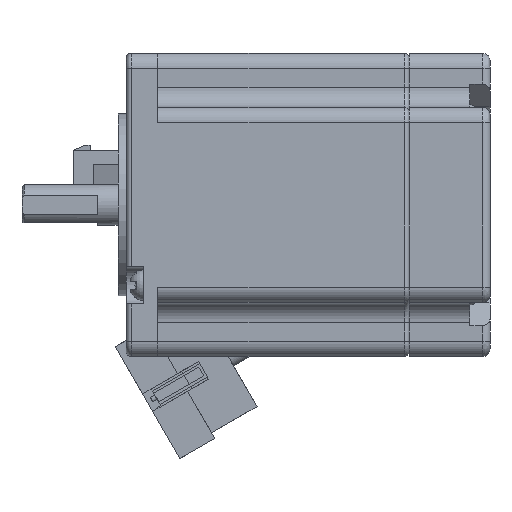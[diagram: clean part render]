
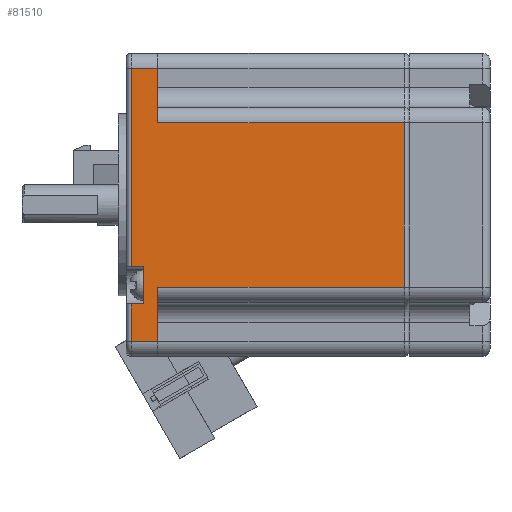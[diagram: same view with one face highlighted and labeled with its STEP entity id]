
A CAD part, front view. The second image highlights one B-rep face of the part: STEP entity #81510.
In plain terms, the highlighted planar face has unit normal (0, -1, 0).
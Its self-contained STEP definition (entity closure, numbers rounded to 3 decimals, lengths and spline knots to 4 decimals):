
#10866=LINE('',#129861,#21677);
#10867=LINE('',#129865,#21678);
#10868=LINE('',#129867,#21679);
#10869=LINE('',#129869,#21680);
#10870=LINE('',#129871,#21681);
#10871=LINE('',#129873,#21682);
#10872=LINE('',#129875,#21683);
#10873=LINE('',#129877,#21684);
#10874=LINE('',#129879,#21685);
#10875=LINE('',#129881,#21686);
#10876=LINE('',#129883,#21687);
#10877=LINE('',#129884,#21688);
#21677=VECTOR('',#105477,1.9173);
#21678=VECTOR('',#105482,1.2835);
#21679=VECTOR('',#105483,1.9173);
#21680=VECTOR('',#105484,0.4213);
#21681=VECTOR('',#105485,0.2087);
#21682=VECTOR('',#105486,1.5433);
#21683=VECTOR('',#105487,0.0984);
#21684=VECTOR('',#105488,0.2913);
#21685=VECTOR('',#105489,0.0984);
#21686=VECTOR('',#105490,0.2913);
#21687=VECTOR('',#105491,0.2087);
#21688=VECTOR('',#105492,0.4213);
#25634=PLANE('',#85985);
#29801=FACE_OUTER_BOUND('',#33996,.T.);
#33996=EDGE_LOOP('',(#76542,#76543,#76544,#76545,#76546,#76547,#76548,#76549,
#76550,#76551,#76552,#76553));
#42408=VERTEX_POINT('',#129858);
#42409=VERTEX_POINT('',#129860);
#42410=VERTEX_POINT('',#129864);
#42411=VERTEX_POINT('',#129866);
#42412=VERTEX_POINT('',#129868);
#42413=VERTEX_POINT('',#129870);
#42414=VERTEX_POINT('',#129872);
#42415=VERTEX_POINT('',#129874);
#42416=VERTEX_POINT('',#129876);
#42417=VERTEX_POINT('',#129878);
#42418=VERTEX_POINT('',#129880);
#42419=VERTEX_POINT('',#129882);
#53862=EDGE_CURVE('',#42408,#42409,#10866,.T.);
#53864=EDGE_CURVE('',#42408,#42410,#10867,.T.);
#53865=EDGE_CURVE('',#42410,#42411,#10868,.T.);
#53866=EDGE_CURVE('',#42411,#42412,#10869,.T.);
#53867=EDGE_CURVE('',#42412,#42413,#10870,.T.);
#53868=EDGE_CURVE('',#42413,#42414,#10871,.T.);
#53869=EDGE_CURVE('',#42414,#42415,#10872,.T.);
#53870=EDGE_CURVE('',#42415,#42416,#10873,.T.);
#53871=EDGE_CURVE('',#42416,#42417,#10874,.T.);
#53872=EDGE_CURVE('',#42417,#42418,#10875,.T.);
#53873=EDGE_CURVE('',#42418,#42419,#10876,.T.);
#53874=EDGE_CURVE('',#42419,#42409,#10877,.T.);
#76542=ORIENTED_EDGE('',*,*,#53862,.F.);
#76543=ORIENTED_EDGE('',*,*,#53864,.T.);
#76544=ORIENTED_EDGE('',*,*,#53865,.T.);
#76545=ORIENTED_EDGE('',*,*,#53866,.T.);
#76546=ORIENTED_EDGE('',*,*,#53867,.T.);
#76547=ORIENTED_EDGE('',*,*,#53868,.T.);
#76548=ORIENTED_EDGE('',*,*,#53869,.T.);
#76549=ORIENTED_EDGE('',*,*,#53870,.T.);
#76550=ORIENTED_EDGE('',*,*,#53871,.T.);
#76551=ORIENTED_EDGE('',*,*,#53872,.T.);
#76552=ORIENTED_EDGE('',*,*,#53873,.T.);
#76553=ORIENTED_EDGE('',*,*,#53874,.T.);
#81510=ADVANCED_FACE('',(#29801),#25634,.T.);
#85985=AXIS2_PLACEMENT_3D('',#129863,#105480,#105481);
#105477=DIRECTION('',(-1.,0.,0.));
#105480=DIRECTION('center_axis',(0.,-1.,0.));
#105481=DIRECTION('ref_axis',(1.,0.,0.));
#105482=DIRECTION('',(0.,0.,1.));
#105483=DIRECTION('',(-1.,0.,0.));
#105484=DIRECTION('',(0.,0.,1.));
#105485=DIRECTION('',(-1.,0.,0.));
#105486=DIRECTION('',(0.,0.,-1.));
#105487=DIRECTION('',(1.,0.,0.));
#105488=DIRECTION('',(0.,0.,-1.));
#105489=DIRECTION('',(-1.,0.,0.));
#105490=DIRECTION('',(0.,0.,-1.));
#105491=DIRECTION('',(1.,0.,0.));
#105492=DIRECTION('',(0.,0.,1.));
#129858=CARTESIAN_POINT('',(-0.7648,-2.3622,-1.8228));
#129860=CARTESIAN_POINT('',(-2.6822,-2.3622,-1.8228));
#129861=CARTESIAN_POINT('',(-2.6822,-2.3622,-1.8228));
#129863=CARTESIAN_POINT('Origin',(-2.9302,-2.3622,0.));
#129864=CARTESIAN_POINT('',(-0.7648,-2.3622,-0.5394));
#129865=CARTESIAN_POINT('',(-0.7648,-2.3622,0.));
#129866=CARTESIAN_POINT('',(-2.6822,-2.3622,-0.5394));
#129867=CARTESIAN_POINT('',(-2.9302,-2.3622,-0.5394));
#129868=CARTESIAN_POINT('',(-2.6822,-2.3622,-0.1181));
#129869=CARTESIAN_POINT('',(-2.6822,-2.3622,0.));
#129870=CARTESIAN_POINT('',(-2.8908,-2.3622,-0.1181));
#129871=CARTESIAN_POINT('',(-2.9302,-2.3622,-0.1181));
#129872=CARTESIAN_POINT('',(-2.8908,-2.3622,-1.6614));
#129873=CARTESIAN_POINT('',(-2.8908,-2.3622,0.));
#129874=CARTESIAN_POINT('',(-2.7924,-2.3622,-1.6614));
#129875=CARTESIAN_POINT('',(-2.9302,-2.3622,-1.6614));
#129876=CARTESIAN_POINT('',(-2.7924,-2.3622,-1.9528));
#129877=CARTESIAN_POINT('',(-2.7924,-2.3622,0.));
#129878=CARTESIAN_POINT('',(-2.8908,-2.3622,-1.9528));
#129879=CARTESIAN_POINT('',(-2.9302,-2.3622,-1.9528));
#129880=CARTESIAN_POINT('',(-2.8908,-2.3622,-2.2441));
#129881=CARTESIAN_POINT('',(-2.8908,-2.3622,0.));
#129882=CARTESIAN_POINT('',(-2.6822,-2.3622,-2.2441));
#129883=CARTESIAN_POINT('',(-2.9302,-2.3622,-2.2441));
#129884=CARTESIAN_POINT('',(-2.6822,-2.3622,0.));
